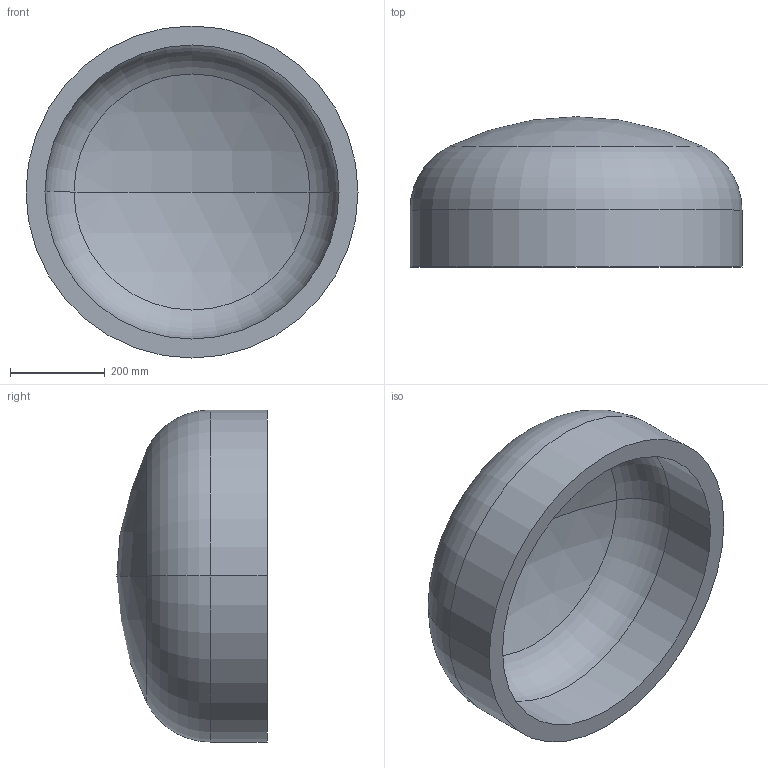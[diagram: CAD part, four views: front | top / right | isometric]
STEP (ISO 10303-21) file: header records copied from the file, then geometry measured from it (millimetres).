
FILE_DESCRIPTION (( 'STEP AP203' ), '1' );
FILE_NAME ('DIN 28013 Korbbogenform_-_Boden DIN 28013 - 700 x 120 - I - s=40.step', '2016-07-01T08:07:37', ( '' ), ( '' ), 'SwSTEP 2.0', 'SolidWorks 2013', '' );
FILE_SCHEMA (( 'CONFIG_CONTROL_DESIGN' ));
Length unit declared in the file: millimetre
Products named in the file (1): DIN 28013 Korbbogenform_-_Boden DIN 28013 - 700 x 120 - I - s=40
Bounding box: 700 x 316.89 x 700 mm (x, y, z)
Volume: 29855046.8 mm3; surface area: 1579041.1 mm2
Topology: 1 solids, 1 shells, 13 faces, 24 edges, 14 vertices
Faces by surface type: torus 4, cylinder 4, sphere 4, plane 1
Entity records: 407 total; most frequent: DIRECTION 72, CARTESIAN_POINT 52, ORIENTED_EDGE 48, AXIS2_PLACEMENT_3D 34, EDGE_CURVE 24, CIRCLE 20, VERTEX_POINT 14, EDGE_LOOP 14
